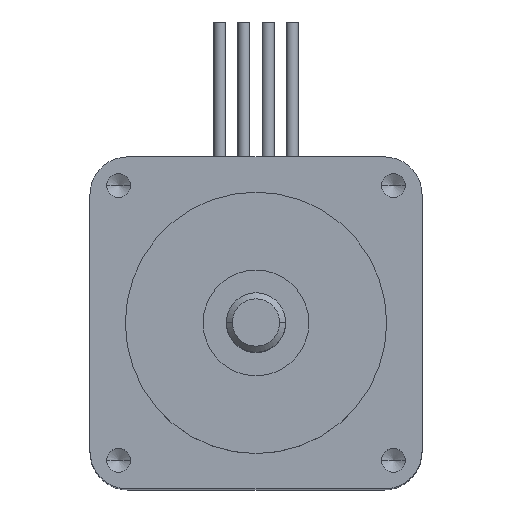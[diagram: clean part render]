
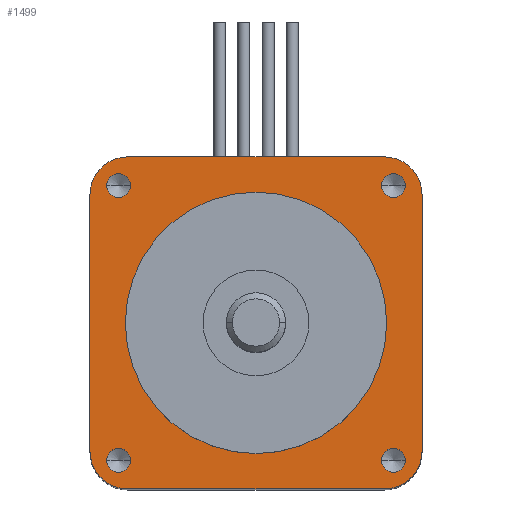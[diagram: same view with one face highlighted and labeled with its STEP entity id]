
A CAD part, top view. The second image highlights one B-rep face of the part: STEP entity #1499.
In plain terms, the highlighted planar face has unit normal (0, 0, 1).
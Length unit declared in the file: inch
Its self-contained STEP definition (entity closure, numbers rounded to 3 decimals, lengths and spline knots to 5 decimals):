
#97=CARTESIAN_POINT('',(-0.433,0.,1.99));
#98=VERTEX_POINT('',#97);
#107=CARTESIAN_POINT('',(0.433,0.,1.99));
#108=VERTEX_POINT('',#107);
#109=CARTESIAN_POINT('',(0.0,0.0,1.99));
#110=DIRECTION('',(0.0,0.0,-1.0));
#111=DIRECTION('',(-1.0,0.0,0.0));
#112=AXIS2_PLACEMENT_3D('',#109,#110,#111);
#113=CIRCLE('',#112,0.433);
#114=EDGE_CURVE('',#108,#98,#113,.T.);
#452=CARTESIAN_POINT('',(0.4945,0.455,1.99));
#453=VERTEX_POINT('',#452);
#469=CARTESIAN_POINT('',(0.4155,0.455,1.99));
#470=VERTEX_POINT('',#469);
#477=CARTESIAN_POINT('',(0.455,0.455,1.99));
#478=DIRECTION('',(0.0,0.0,-1.0));
#479=DIRECTION('',(1.0,0.0,0.0));
#480=AXIS2_PLACEMENT_3D('',#477,#478,#479);
#481=CIRCLE('',#480,0.0395);
#482=EDGE_CURVE('',#453,#470,#481,.T.);
#565=CARTESIAN_POINT('',(-0.4155,-0.455,1.99));
#566=VERTEX_POINT('',#565);
#582=CARTESIAN_POINT('',(-0.4945,-0.455,1.99));
#583=VERTEX_POINT('',#582);
#590=CARTESIAN_POINT('',(-0.455,-0.455,1.99));
#591=DIRECTION('',(0.0,0.0,-1.0));
#592=DIRECTION('',(1.0,0.0,0.0));
#593=AXIS2_PLACEMENT_3D('',#590,#591,#592);
#594=CIRCLE('',#593,0.0395);
#595=EDGE_CURVE('',#566,#583,#594,.T.);
#678=CARTESIAN_POINT('',(-0.4155,0.455,1.99));
#679=VERTEX_POINT('',#678);
#695=CARTESIAN_POINT('',(-0.4945,0.455,1.99));
#696=VERTEX_POINT('',#695);
#703=CARTESIAN_POINT('',(-0.455,0.455,1.99));
#704=DIRECTION('',(0.0,0.0,-1.0));
#705=DIRECTION('',(1.0,0.0,0.0));
#706=AXIS2_PLACEMENT_3D('',#703,#704,#705);
#707=CIRCLE('',#706,0.0395);
#708=EDGE_CURVE('',#679,#696,#707,.T.);
#791=CARTESIAN_POINT('',(0.4945,-0.455,1.99));
#792=VERTEX_POINT('',#791);
#808=CARTESIAN_POINT('',(0.4155,-0.455,1.99));
#809=VERTEX_POINT('',#808);
#816=CARTESIAN_POINT('',(0.455,-0.455,1.99));
#817=DIRECTION('',(0.0,0.0,-1.0));
#818=DIRECTION('',(1.0,0.0,0.0));
#819=AXIS2_PLACEMENT_3D('',#816,#817,#818);
#820=CIRCLE('',#819,0.0395);
#821=EDGE_CURVE('',#792,#809,#820,.T.);
#935=CARTESIAN_POINT('',(0.455,-0.455,1.99));
#936=DIRECTION('',(0.0,0.0,-1.0));
#937=DIRECTION('',(1.0,0.0,0.0));
#938=AXIS2_PLACEMENT_3D('',#935,#936,#937);
#939=CIRCLE('',#938,0.0395);
#940=EDGE_CURVE('',#809,#792,#939,.T.);
#1006=CARTESIAN_POINT('',(-0.455,0.455,1.99));
#1007=DIRECTION('',(0.0,0.0,-1.0));
#1008=DIRECTION('',(1.0,0.0,0.0));
#1009=AXIS2_PLACEMENT_3D('',#1006,#1007,#1008);
#1010=CIRCLE('',#1009,0.0395);
#1011=EDGE_CURVE('',#696,#679,#1010,.T.);
#1077=CARTESIAN_POINT('',(-0.455,-0.455,1.99));
#1078=DIRECTION('',(0.0,0.0,-1.0));
#1079=DIRECTION('',(1.0,0.0,0.0));
#1080=AXIS2_PLACEMENT_3D('',#1077,#1078,#1079);
#1081=CIRCLE('',#1080,0.0395);
#1082=EDGE_CURVE('',#583,#566,#1081,.T.);
#1148=CARTESIAN_POINT('',(0.455,0.455,1.99));
#1149=DIRECTION('',(0.0,0.0,-1.0));
#1150=DIRECTION('',(1.0,0.0,0.0));
#1151=AXIS2_PLACEMENT_3D('',#1148,#1149,#1150);
#1152=CIRCLE('',#1151,0.0395);
#1153=EDGE_CURVE('',#470,#453,#1152,.T.);
#1380=CARTESIAN_POINT('',(0.0,0.0,1.99));
#1381=DIRECTION('',(0.0,0.0,-1.0));
#1382=DIRECTION('',(-1.0,0.0,0.0));
#1383=AXIS2_PLACEMENT_3D('',#1380,#1381,#1382);
#1384=CIRCLE('',#1383,0.433);
#1385=EDGE_CURVE('',#98,#108,#1384,.T.);
#1404=CARTESIAN_POINT('',(0.0,0.0,1.99));
#1405=DIRECTION('',(0.0,0.0,1.0));
#1406=DIRECTION('',(1.0,0.0,0.0));
#1407=AXIS2_PLACEMENT_3D('',#1404,#1405,#1406);
#1408=PLANE('',#1407);
#1409=CARTESIAN_POINT('',(-0.425,0.55,1.99));
#1410=VERTEX_POINT('',#1409);
#1411=CARTESIAN_POINT('',(-0.55,0.425,1.99));
#1412=VERTEX_POINT('',#1411);
#1413=CARTESIAN_POINT('',(-0.425,0.425,1.99));
#1414=DIRECTION('',(0.0,0.0,1.0));
#1415=DIRECTION('',(0.0,1.0,0.0));
#1416=AXIS2_PLACEMENT_3D('',#1413,#1414,#1415);
#1417=CIRCLE('',#1416,0.125);
#1418=EDGE_CURVE('',#1410,#1412,#1417,.T.);
#1419=ORIENTED_EDGE('',*,*,#1418,.T.);
#1420=CARTESIAN_POINT('',(-0.55,-0.425,1.99));
#1421=VERTEX_POINT('',#1420);
#1422=CARTESIAN_POINT('',(-0.55,0.425,1.99));
#1423=DIRECTION('',(0.0,-1.0,0.0));
#1424=VECTOR('',#1423,0.85);
#1425=LINE('',#1422,#1424);
#1426=EDGE_CURVE('',#1412,#1421,#1425,.T.);
#1427=ORIENTED_EDGE('',*,*,#1426,.T.);
#1428=CARTESIAN_POINT('',(-0.425,-0.55,1.99));
#1429=VERTEX_POINT('',#1428);
#1430=CARTESIAN_POINT('',(-0.425,-0.425,1.99));
#1431=DIRECTION('',(0.0,0.0,1.0));
#1432=DIRECTION('',(-1.0,0.0,0.0));
#1433=AXIS2_PLACEMENT_3D('',#1430,#1431,#1432);
#1434=CIRCLE('',#1433,0.125);
#1435=EDGE_CURVE('',#1421,#1429,#1434,.T.);
#1436=ORIENTED_EDGE('',*,*,#1435,.T.);
#1437=CARTESIAN_POINT('',(0.425,-0.55,1.99));
#1438=VERTEX_POINT('',#1437);
#1439=CARTESIAN_POINT('',(-0.425,-0.55,1.99));
#1440=DIRECTION('',(1.0,0.0,0.0));
#1441=VECTOR('',#1440,0.85);
#1442=LINE('',#1439,#1441);
#1443=EDGE_CURVE('',#1429,#1438,#1442,.T.);
#1444=ORIENTED_EDGE('',*,*,#1443,.T.);
#1445=CARTESIAN_POINT('',(0.55,-0.425,1.99));
#1446=VERTEX_POINT('',#1445);
#1447=CARTESIAN_POINT('',(0.425,-0.425,1.99));
#1448=DIRECTION('',(0.0,0.0,1.0));
#1449=DIRECTION('',(0.0,-1.0,0.0));
#1450=AXIS2_PLACEMENT_3D('',#1447,#1448,#1449);
#1451=CIRCLE('',#1450,0.125);
#1452=EDGE_CURVE('',#1438,#1446,#1451,.T.);
#1453=ORIENTED_EDGE('',*,*,#1452,.T.);
#1454=CARTESIAN_POINT('',(0.55,0.425,1.99));
#1455=VERTEX_POINT('',#1454);
#1456=CARTESIAN_POINT('',(0.55,-0.425,1.99));
#1457=DIRECTION('',(0.0,1.0,0.0));
#1458=VECTOR('',#1457,0.85);
#1459=LINE('',#1456,#1458);
#1460=EDGE_CURVE('',#1446,#1455,#1459,.T.);
#1461=ORIENTED_EDGE('',*,*,#1460,.T.);
#1462=CARTESIAN_POINT('',(0.425,0.55,1.99));
#1463=VERTEX_POINT('',#1462);
#1464=CARTESIAN_POINT('',(0.425,0.425,1.99));
#1465=DIRECTION('',(0.0,0.0,1.0));
#1466=DIRECTION('',(1.0,0.0,0.0));
#1467=AXIS2_PLACEMENT_3D('',#1464,#1465,#1466);
#1468=CIRCLE('',#1467,0.125);
#1469=EDGE_CURVE('',#1455,#1463,#1468,.T.);
#1470=ORIENTED_EDGE('',*,*,#1469,.T.);
#1471=CARTESIAN_POINT('',(0.425,0.55,1.99));
#1472=DIRECTION('',(-1.0,0.0,0.0));
#1473=VECTOR('',#1472,0.85);
#1474=LINE('',#1471,#1473);
#1475=EDGE_CURVE('',#1463,#1410,#1474,.T.);
#1476=ORIENTED_EDGE('',*,*,#1475,.T.);
#1477=EDGE_LOOP('',(#1419,#1427,#1436,#1444,#1453,#1461,#1470,#1476));
#1478=FACE_OUTER_BOUND('',#1477,.T.);
#1479=ORIENTED_EDGE('',*,*,#821,.T.);
#1480=ORIENTED_EDGE('',*,*,#940,.T.);
#1481=EDGE_LOOP('',(#1479,#1480));
#1482=FACE_BOUND('',#1481,.T.);
#1483=ORIENTED_EDGE('',*,*,#708,.T.);
#1484=ORIENTED_EDGE('',*,*,#1011,.T.);
#1485=EDGE_LOOP('',(#1483,#1484));
#1486=FACE_BOUND('',#1485,.T.);
#1487=ORIENTED_EDGE('',*,*,#595,.T.);
#1488=ORIENTED_EDGE('',*,*,#1082,.T.);
#1489=EDGE_LOOP('',(#1487,#1488));
#1490=FACE_BOUND('',#1489,.T.);
#1491=ORIENTED_EDGE('',*,*,#482,.T.);
#1492=ORIENTED_EDGE('',*,*,#1153,.T.);
#1493=EDGE_LOOP('',(#1491,#1492));
#1494=FACE_BOUND('',#1493,.T.);
#1495=ORIENTED_EDGE('',*,*,#114,.T.);
#1496=ORIENTED_EDGE('',*,*,#1385,.T.);
#1497=EDGE_LOOP('',(#1495,#1496));
#1498=FACE_BOUND('',#1497,.T.);
#1499=ADVANCED_FACE('',(#1478,#1482,#1486,#1490,#1494,#1498),#1408,.T.);
